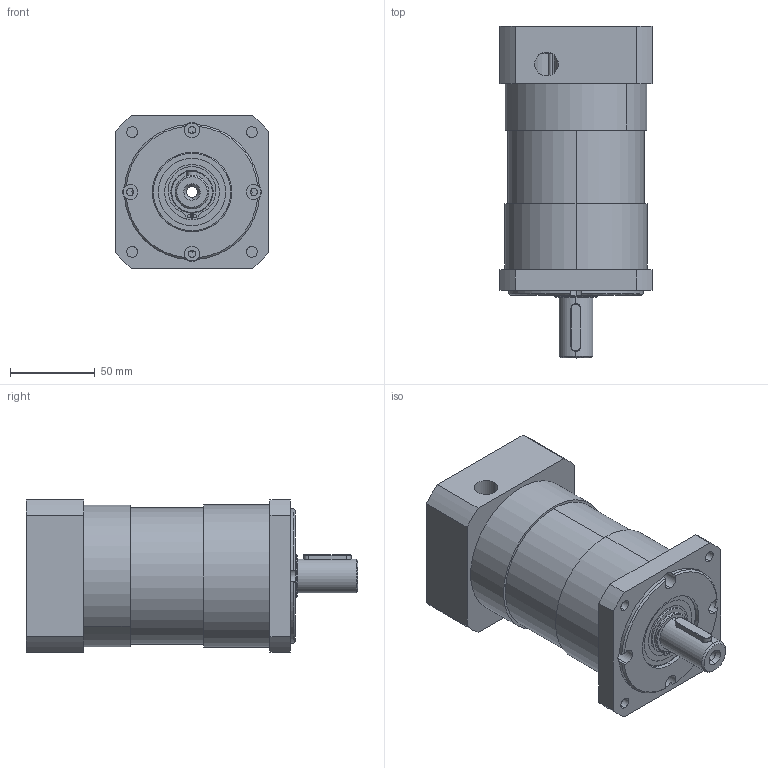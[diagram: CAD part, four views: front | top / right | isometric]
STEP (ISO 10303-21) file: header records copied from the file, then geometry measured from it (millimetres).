
FILE_DESCRIPTION (( 'STEP AP214' ), '1' );
FILE_NAME ('84媼撰源怀堤俋褲.STEP', '2017-04-27T05:12:46', ( '' ), ( '' ), 'SwSTEP 2.0', 'SolidWorks 2016', '' );
FILE_SCHEMA (( 'AUTOMOTIVE_DESIGN' ));
Length unit declared in the file: millimetre
Products named in the file (1): 84媼撰源怀堤俋褲
Bounding box: 90 x 196.2 x 90 mm (x, y, z)
Surface area: 90256 mm2 (no closed solid volume)
Topology: 0 solids, 13 shells, 153 faces, 507 edges, 365 vertices
Faces by surface type: cylinder 83, plane 45, cone 21, torus 4
Entity records: 7653 total; most frequent: CARTESIAN_POINT 1419, DIRECTION 1014, ORIENTED_EDGE 829, EDGE_CURVE 507, AXIS2_PLACEMENT_3D 410, VERTEX_POINT 365, CIRCLE 256, LINE 194
